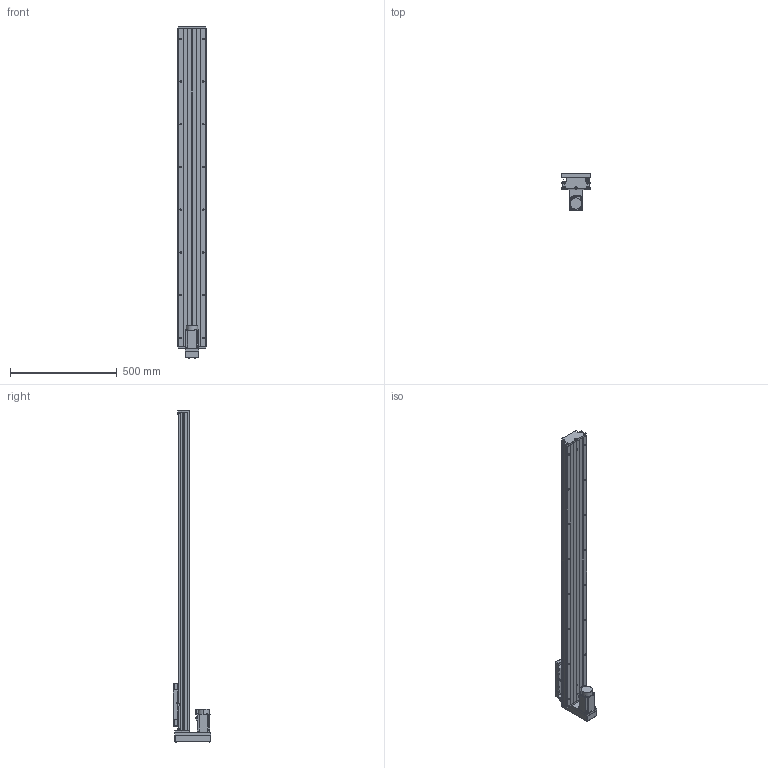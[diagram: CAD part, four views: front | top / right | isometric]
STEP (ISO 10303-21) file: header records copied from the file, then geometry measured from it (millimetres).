
FILE_DESCRIPTION (( 'STEP AP203' ), '1' );
FILE_NAME ('GTH14-1250-BM-M40-C4.step', '2023-06-30T08:44:50', ( '微软用户' ), ( '微软中国' ), 'SwSTEP 2.0', 'SolidWorks 2020', '' );
FILE_SCHEMA (( 'CONFIG_CONTROL_DESIGN' ));
Length unit declared in the file: millimetre
Products named in the file (19): GTH14-004; GBT 70.1-M3℅5; GTH14-015-2_CTHA86-015-2; GTH14-005; GBT77-2000 M3×3; GTH14-033; GB1155-6X6; GTH14-031; GTH14-1250-BM-M40-C4; GBT70.1 M5℅16; GBT 70.2-M3¡Á5_M3¡Á6; CTHA60-017; す晦芛蹟隊 M3℅5; GTH14-001_1250; EE_SX911P_R; HG-KN43J-S100; GTH14-002_GTH14-002; CTHA60-016; GBT 70.2-M4¡Á35_M4¡Á35
Assembly tree (58 placements, depth 2):
  GTH14-1250-BM-M40-C4
    GTH14-001_1250
    GTH14-002_GTH14-002
    GTH14-004
    GTH14-005
    GB1155-6X6  x2
    GBT70.1 M5℅16  x10
    CTHA60-017  x3
    EE_SX911P_R  x3
    CTHA60-016  x2
    GBT 70.1-M3℅5  x6
    GBT77-2000 M3×3  x6
    GTH14-031
    GBT 70.2-M3¡Á5_M3¡Á6  x8
    す晦芛蹟隊 M3℅5  x6
    HG-KN43J-S100
    GBT 70.2-M4¡Á35_M4¡Á35  x4
    GTH14-015-2_CTHA86-015-2
    GTH14-033
Bounding box: 135 x 177.5 x 1554.2 mm (x, y, z)
Volume: 8165815.9 mm3; surface area: 1286299.4 mm2
Topology: 61 solids, 61 shells, 2483 faces, 5905 edges, 3642 vertices
Faces by surface type: plane 1313, cylinder 680, cone 314, torus 124, sphere 32, bspline 20
Entity records: 45082 total; most frequent: CARTESIAN_POINT 10007, DIRECTION 6669, ORIENTED_EDGE 6500, EDGE_CURVE 3250, AXIS2_PLACEMENT_3D 2296, VECTOR 2077, LINE 2077, VERTEX_POINT 2060
